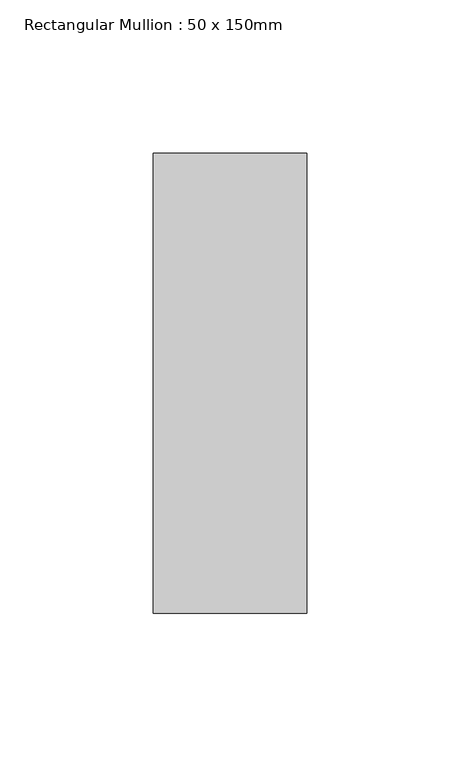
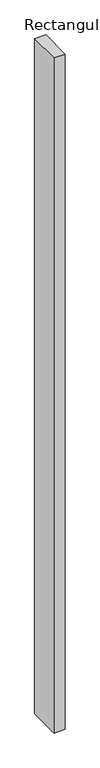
"""IFC4 building model written with IfcOpenShell, lengths in millimetres: member geometry, Rectangular Mullion : 50 x 150mm."""

from ifc_helpers import new_model, si_unit, frame, origin, place, context, project, spatial, polyline, outline, extrude, source, transform, mapped, element, save


def rectangular_mullion_50_x_150mm_a95743fc(model_context):
    return source(origin(), model_context, "Body", "SweptSolid", [
        extrude(outline(polyline([(0.0, 75.0), (0.0, -75.0), (-50.0, -75.0), (-50.0, 75.0), (0.0, 75.0)])), frame((0.0, 0.0, -3200.0), z_axis=(0.0, 0.0, 1.0), x_axis=(1.0, 0.0, 0.0)), (0.0, 0.0, 1.0), 3200.0),
    ])


if __name__ == "__main__":
    model = new_model("IFC4")
    model_context = context("Model", 3, world=origin())
    ifc_project = project(units=[si_unit("LENGTHUNIT", "METRE", prefix="MILLI")], contexts=[model_context])
    site = spatial("IfcSite", under=ifc_project)
    building = spatial("IfcBuilding", under=site)
    placement = place(None, origin())
    rectangular_mullion_50_x_150mm_shape = rectangular_mullion_50_x_150mm_a95743fc(model_context)
    element("IfcMember", 1, ObjectType="Rectangular Mullion : 50 x 150mm", at=placement, inside=building, context=model_context, shape_type="MappedRepresentation", body=[
        mapped(rectangular_mullion_50_x_150mm_shape, transform((0.0, 0.0, 0.0), x_axis=(1.0, 0.0, 0.0), y_axis=(0.0, 1.0, 0.0), z_axis=(0.0, 0.0, 1.0))),
    ])
    save(model, "model.ifc")
